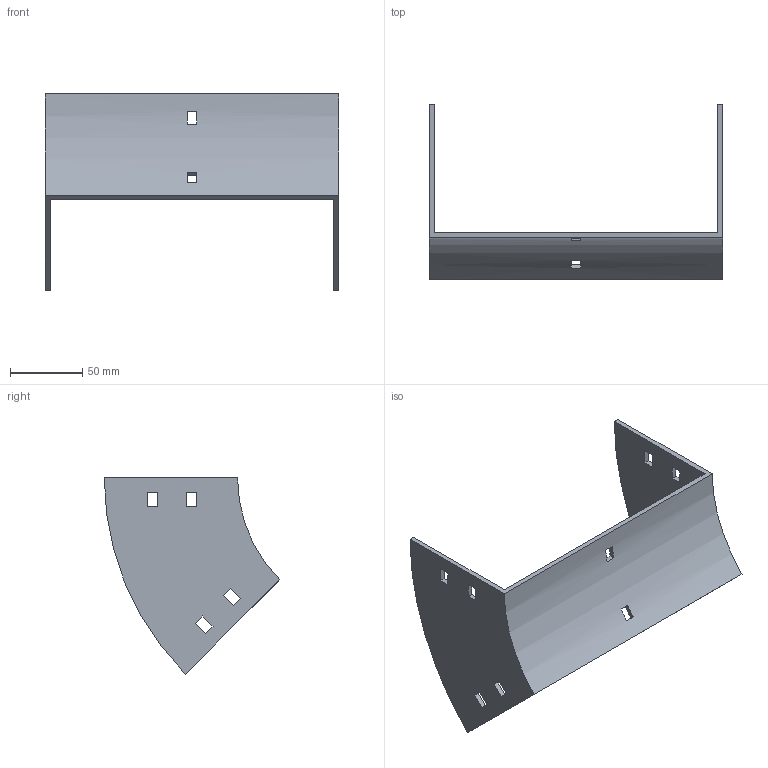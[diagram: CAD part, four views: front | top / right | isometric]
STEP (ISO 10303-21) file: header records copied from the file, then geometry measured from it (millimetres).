
FILE_DESCRIPTION (( 'STEP AP214' ), '1' );
FILE_NAME ('34B1I200.step', '2025-02-21T09:30:07', ( '' ), ( '' ), 'SwSTEP 2.0', 'SolidWorks 2023', '' );
FILE_SCHEMA (( 'AUTOMOTIVE_DESIGN' ));
Length unit declared in the file: millimetre
Products named in the file (1): 34B1I200
Bounding box: 204 x 121.79 x 136.12 mm (x, y, z)
Volume: 127100.5 mm3; surface area: 77523.6 mm2
Topology: 1 solids, 1 shells, 50 faces, 144 edges, 96 vertices
Faces by surface type: plane 46, cylinder 4
Entity records: 1687 total; most frequent: CARTESIAN_POINT 291, ORIENTED_EDGE 288, DIRECTION 262, EDGE_CURVE 144, LINE 128, VECTOR 128, VERTEX_POINT 96, EDGE_LOOP 70
